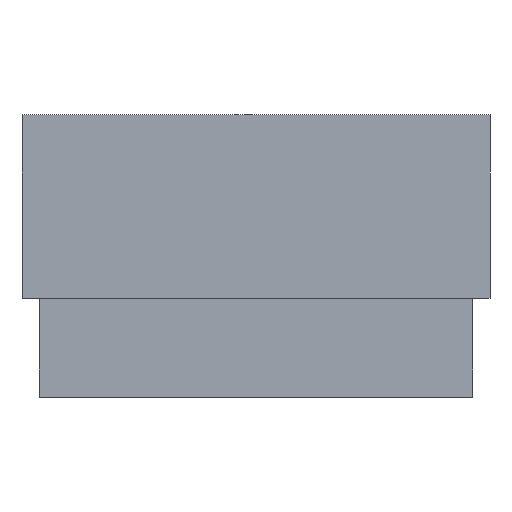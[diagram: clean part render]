
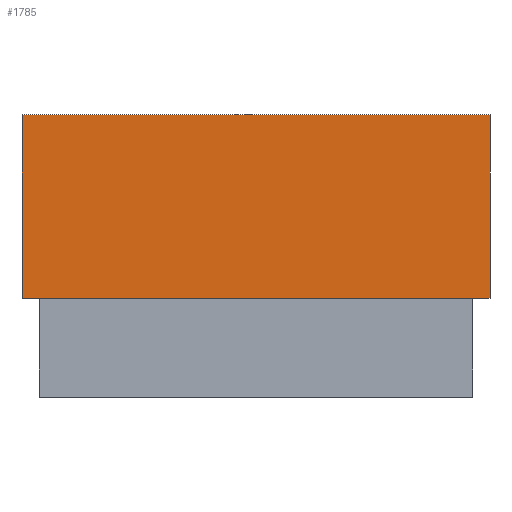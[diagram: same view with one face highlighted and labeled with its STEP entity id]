
A CAD part, left-side view. The second image highlights one B-rep face of the part: STEP entity #1785.
In plain terms, the highlighted planar face has unit normal (-1, 0, 0).
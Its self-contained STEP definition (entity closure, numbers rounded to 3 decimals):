
#126 = PLANE('',#127);
#127 = AXIS2_PLACEMENT_3D('',#128,#129,#130);
#128 = CARTESIAN_POINT('',(-29.62,-21.95,5.));
#129 = DIRECTION('',(0.,0.,1.));
#130 = DIRECTION('',(1.,0.,0.));
#166 = VERTEX_POINT('',#167);
#167 = CARTESIAN_POINT('',(-25.796,-21.95,5.));
#204 = PLANE('',#205);
#205 = AXIS2_PLACEMENT_3D('',#206,#207,#208);
#206 = CARTESIAN_POINT('',(-23.696,0.,5.));
#207 = DIRECTION('',(0.,0.,1.));
#208 = DIRECTION('',(1.,0.,-0.));
#554 = VERTEX_POINT('',#555);
#555 = CARTESIAN_POINT('',(-25.796,21.95,5.));
#578 = EDGE_CURVE('',#554,#166,#579,.T.);
#579 = SURFACE_CURVE('',#580,(#584,#591),.PCURVE_S1.);
#580 = LINE('',#581,#582);
#581 = CARTESIAN_POINT('',(-25.796,23.696,5.));
#582 = VECTOR('',#583,1.);
#583 = DIRECTION('',(0.,-1.,0.));
#584 = PCURVE('',#126,#585);
#585 = DEFINITIONAL_REPRESENTATION('',(#586),#590);
#586 = LINE('',#587,#588);
#587 = CARTESIAN_POINT('',(3.824,45.646));
#588 = VECTOR('',#589,1.);
#589 = DIRECTION('',(0.,-1.));
#590 = ( GEOMETRIC_REPRESENTATION_CONTEXT(2) 
PARAMETRIC_REPRESENTATION_CONTEXT() REPRESENTATION_CONTEXT('2D SPACE',''
  ) );
#591 = PCURVE('',#592,#597);
#592 = PLANE('',#593);
#593 = AXIS2_PLACEMENT_3D('',#594,#595,#596);
#594 = CARTESIAN_POINT('',(-25.796,23.696,5.));
#595 = DIRECTION('',(1.,0.,-0.));
#596 = DIRECTION('',(0.,-1.,0.));
#597 = DEFINITIONAL_REPRESENTATION('',(#598),#602);
#598 = LINE('',#599,#600);
#599 = CARTESIAN_POINT('',(0.,0.));
#600 = VECTOR('',#601,1.);
#601 = DIRECTION('',(1.,0.));
#602 = ( GEOMETRIC_REPRESENTATION_CONTEXT(2) 
PARAMETRIC_REPRESENTATION_CONTEXT() REPRESENTATION_CONTEXT('2D SPACE',''
  ) );
#648 = PLANE('',#649);
#649 = AXIS2_PLACEMENT_3D('',#650,#651,#652);
#650 = CARTESIAN_POINT('',(-23.696,0.,5.));
#651 = DIRECTION('',(0.,0.,1.));
#652 = DIRECTION('',(1.,0.,-0.));
#1016 = EDGE_CURVE('',#166,#1017,#1019,.T.);
#1017 = VERTEX_POINT('',#1018);
#1018 = CARTESIAN_POINT('',(-25.796,-23.696,5.));
#1019 = SURFACE_CURVE('',#1020,(#1024,#1031),.PCURVE_S1.);
#1020 = LINE('',#1021,#1022);
#1021 = CARTESIAN_POINT('',(-25.796,23.696,5.));
#1022 = VECTOR('',#1023,1.);
#1023 = DIRECTION('',(0.,-1.,0.));
#1024 = PCURVE('',#204,#1025);
#1025 = DEFINITIONAL_REPRESENTATION('',(#1026),#1030);
#1026 = LINE('',#1027,#1028);
#1027 = CARTESIAN_POINT('',(-2.1,23.696));
#1028 = VECTOR('',#1029,1.);
#1029 = DIRECTION('',(0.,-1.));
#1030 = ( GEOMETRIC_REPRESENTATION_CONTEXT(2) 
PARAMETRIC_REPRESENTATION_CONTEXT() REPRESENTATION_CONTEXT('2D SPACE',''
  ) );
#1031 = PCURVE('',#592,#1032);
#1032 = DEFINITIONAL_REPRESENTATION('',(#1033),#1037);
#1033 = LINE('',#1034,#1035);
#1034 = CARTESIAN_POINT('',(0.,0.));
#1035 = VECTOR('',#1036,1.);
#1036 = DIRECTION('',(1.,0.));
#1037 = ( GEOMETRIC_REPRESENTATION_CONTEXT(2) 
PARAMETRIC_REPRESENTATION_CONTEXT() REPRESENTATION_CONTEXT('2D SPACE',''
  ) );
#1055 = PLANE('',#1056);
#1056 = AXIS2_PLACEMENT_3D('',#1057,#1058,#1059);
#1057 = CARTESIAN_POINT('',(-25.796,-23.696,5.));
#1058 = DIRECTION('',(0.,1.,0.));
#1059 = DIRECTION('',(1.,0.,0.));
#1785 = ADVANCED_FACE('',(#1786),#592,.F.);
#1786 = FACE_BOUND('',#1787,.F.);
#1787 = EDGE_LOOP('',(#1788,#1818,#1846,#1867,#1868,#1869));
#1788 = ORIENTED_EDGE('',*,*,#1789,.T.);
#1789 = EDGE_CURVE('',#1790,#1792,#1794,.T.);
#1790 = VERTEX_POINT('',#1791);
#1791 = CARTESIAN_POINT('',(-25.796,23.696,5.));
#1792 = VERTEX_POINT('',#1793);
#1793 = CARTESIAN_POINT('',(-25.796,23.696,23.6));
#1794 = SURFACE_CURVE('',#1795,(#1799,#1806),.PCURVE_S1.);
#1795 = LINE('',#1796,#1797);
#1796 = CARTESIAN_POINT('',(-25.796,23.696,5.));
#1797 = VECTOR('',#1798,1.);
#1798 = DIRECTION('',(0.,0.,1.));
#1799 = PCURVE('',#592,#1800);
#1800 = DEFINITIONAL_REPRESENTATION('',(#1801),#1805);
#1801 = LINE('',#1802,#1803);
#1802 = CARTESIAN_POINT('',(0.,0.));
#1803 = VECTOR('',#1804,1.);
#1804 = DIRECTION('',(0.,-1.));
#1805 = ( GEOMETRIC_REPRESENTATION_CONTEXT(2) 
PARAMETRIC_REPRESENTATION_CONTEXT() REPRESENTATION_CONTEXT('2D SPACE',''
  ) );
#1806 = PCURVE('',#1807,#1812);
#1807 = PLANE('',#1808);
#1808 = AXIS2_PLACEMENT_3D('',#1809,#1810,#1811);
#1809 = CARTESIAN_POINT('',(-21.596,23.696,5.));
#1810 = DIRECTION('',(0.,-1.,0.));
#1811 = DIRECTION('',(-1.,0.,0.));
#1812 = DEFINITIONAL_REPRESENTATION('',(#1813),#1817);
#1813 = LINE('',#1814,#1815);
#1814 = CARTESIAN_POINT('',(4.2,0.));
#1815 = VECTOR('',#1816,1.);
#1816 = DIRECTION('',(0.,-1.));
#1817 = ( GEOMETRIC_REPRESENTATION_CONTEXT(2) 
PARAMETRIC_REPRESENTATION_CONTEXT() REPRESENTATION_CONTEXT('2D SPACE',''
  ) );
#1818 = ORIENTED_EDGE('',*,*,#1819,.T.);
#1819 = EDGE_CURVE('',#1792,#1820,#1822,.T.);
#1820 = VERTEX_POINT('',#1821);
#1821 = CARTESIAN_POINT('',(-25.796,-23.696,23.6));
#1822 = SURFACE_CURVE('',#1823,(#1827,#1834),.PCURVE_S1.);
#1823 = LINE('',#1824,#1825);
#1824 = CARTESIAN_POINT('',(-25.796,23.696,23.6));
#1825 = VECTOR('',#1826,1.);
#1826 = DIRECTION('',(0.,-1.,0.));
#1827 = PCURVE('',#592,#1828);
#1828 = DEFINITIONAL_REPRESENTATION('',(#1829),#1833);
#1829 = LINE('',#1830,#1831);
#1830 = CARTESIAN_POINT('',(0.,-18.6));
#1831 = VECTOR('',#1832,1.);
#1832 = DIRECTION('',(1.,0.));
#1833 = ( GEOMETRIC_REPRESENTATION_CONTEXT(2) 
PARAMETRIC_REPRESENTATION_CONTEXT() REPRESENTATION_CONTEXT('2D SPACE',''
  ) );
#1834 = PCURVE('',#1835,#1840);
#1835 = PLANE('',#1836);
#1836 = AXIS2_PLACEMENT_3D('',#1837,#1838,#1839);
#1837 = CARTESIAN_POINT('',(-23.696,0.,23.6));
#1838 = DIRECTION('',(0.,0.,1.));
#1839 = DIRECTION('',(1.,0.,-0.));
#1840 = DEFINITIONAL_REPRESENTATION('',(#1841),#1845);
#1841 = LINE('',#1842,#1843);
#1842 = CARTESIAN_POINT('',(-2.1,23.696));
#1843 = VECTOR('',#1844,1.);
#1844 = DIRECTION('',(0.,-1.));
#1845 = ( GEOMETRIC_REPRESENTATION_CONTEXT(2) 
PARAMETRIC_REPRESENTATION_CONTEXT() REPRESENTATION_CONTEXT('2D SPACE',''
  ) );
#1846 = ORIENTED_EDGE('',*,*,#1847,.F.);
#1847 = EDGE_CURVE('',#1017,#1820,#1848,.T.);
#1848 = SURFACE_CURVE('',#1849,(#1853,#1860),.PCURVE_S1.);
#1849 = LINE('',#1850,#1851);
#1850 = CARTESIAN_POINT('',(-25.796,-23.696,5.));
#1851 = VECTOR('',#1852,1.);
#1852 = DIRECTION('',(0.,0.,1.));
#1853 = PCURVE('',#592,#1854);
#1854 = DEFINITIONAL_REPRESENTATION('',(#1855),#1859);
#1855 = LINE('',#1856,#1857);
#1856 = CARTESIAN_POINT('',(47.392,0.));
#1857 = VECTOR('',#1858,1.);
#1858 = DIRECTION('',(0.,-1.));
#1859 = ( GEOMETRIC_REPRESENTATION_CONTEXT(2) 
PARAMETRIC_REPRESENTATION_CONTEXT() REPRESENTATION_CONTEXT('2D SPACE',''
  ) );
#1860 = PCURVE('',#1055,#1861);
#1861 = DEFINITIONAL_REPRESENTATION('',(#1862),#1866);
#1862 = LINE('',#1863,#1864);
#1863 = CARTESIAN_POINT('',(0.,0.));
#1864 = VECTOR('',#1865,1.);
#1865 = DIRECTION('',(0.,-1.));
#1866 = ( GEOMETRIC_REPRESENTATION_CONTEXT(2) 
PARAMETRIC_REPRESENTATION_CONTEXT() REPRESENTATION_CONTEXT('2D SPACE',''
  ) );
#1867 = ORIENTED_EDGE('',*,*,#1016,.F.);
#1868 = ORIENTED_EDGE('',*,*,#578,.F.);
#1869 = ORIENTED_EDGE('',*,*,#1870,.F.);
#1870 = EDGE_CURVE('',#1790,#554,#1871,.T.);
#1871 = SURFACE_CURVE('',#1872,(#1876,#1883),.PCURVE_S1.);
#1872 = LINE('',#1873,#1874);
#1873 = CARTESIAN_POINT('',(-25.796,23.696,5.));
#1874 = VECTOR('',#1875,1.);
#1875 = DIRECTION('',(0.,-1.,0.));
#1876 = PCURVE('',#592,#1877);
#1877 = DEFINITIONAL_REPRESENTATION('',(#1878),#1882);
#1878 = LINE('',#1879,#1880);
#1879 = CARTESIAN_POINT('',(0.,0.));
#1880 = VECTOR('',#1881,1.);
#1881 = DIRECTION('',(1.,0.));
#1882 = ( GEOMETRIC_REPRESENTATION_CONTEXT(2) 
PARAMETRIC_REPRESENTATION_CONTEXT() REPRESENTATION_CONTEXT('2D SPACE',''
  ) );
#1883 = PCURVE('',#648,#1884);
#1884 = DEFINITIONAL_REPRESENTATION('',(#1885),#1889);
#1885 = LINE('',#1886,#1887);
#1886 = CARTESIAN_POINT('',(-2.1,23.696));
#1887 = VECTOR('',#1888,1.);
#1888 = DIRECTION('',(0.,-1.));
#1889 = ( GEOMETRIC_REPRESENTATION_CONTEXT(2) 
PARAMETRIC_REPRESENTATION_CONTEXT() REPRESENTATION_CONTEXT('2D SPACE',''
  ) );
